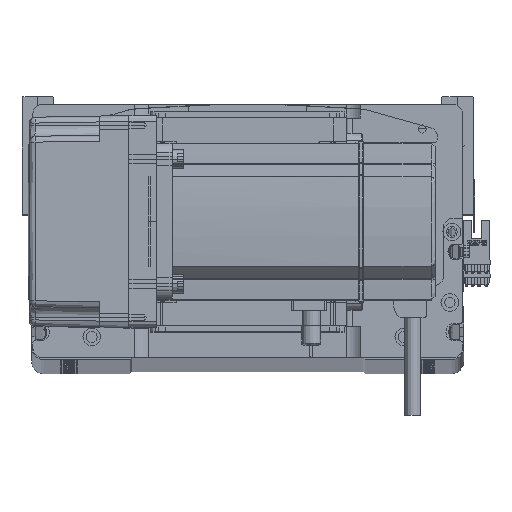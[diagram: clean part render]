
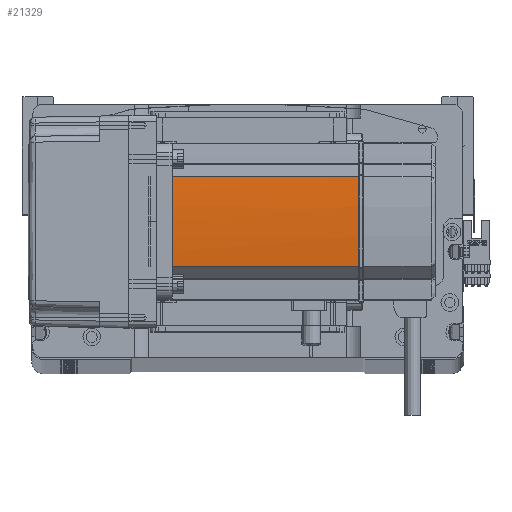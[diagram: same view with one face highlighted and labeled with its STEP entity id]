
A CAD part, top view. The second image highlights one B-rep face of the part: STEP entity #21329.
In plain terms, the highlighted cylindrical face has radius 270 mm (diameter 540 mm), a partial arc.
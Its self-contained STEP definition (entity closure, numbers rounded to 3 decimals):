
#25 = CARTESIAN_POINT ( 'NONE',  ( 39.042, -22.724, 134. ) ) ;
#3010 = DIRECTION ( 'NONE',  ( -1., 0., 0. ) ) ;
#6850 = CARTESIAN_POINT ( 'NONE',  ( 40., 0.127, 134. ) ) ;
#8095 = DIRECTION ( 'NONE',  ( 0., 0., 1. ) ) ;
#8915 = CARTESIAN_POINT ( 'NONE',  ( 39.042, 22.724, 58. ) ) ;
#9067 = ORIENTED_EDGE ( 'NONE', *, *, #21955, .T. ) ;
#9470 = CARTESIAN_POINT ( 'NONE',  ( 39.042, 22.724, 39. ) ) ;
#9952 = AXIS2_PLACEMENT_3D ( 'NONE', #41610, #46223, #3010 ) ;
#11880 = CARTESIAN_POINT ( 'NONE',  ( -230., 0., 134. ) ) ;
#12262 = DIRECTION ( 'NONE',  ( -1., 0., 0. ) ) ;
#12684 = CIRCLE ( 'NONE', #52370, 270. ) ;
#12924 = EDGE_CURVE ( 'NONE', #48194, #27539, #24517, .T. ) ;
#13356 = CIRCLE ( 'NONE', #9952, 270. ) ;
#15246 = VECTOR ( 'NONE', #8095, 1000. ) ;
#16072 = VERTEX_POINT ( 'NONE', #43747 ) ;
#16398 = DIRECTION ( 'NONE',  ( 0., 0., -1. ) ) ;
#16883 = ORIENTED_EDGE ( 'NONE', *, *, #55757, .T. ) ;
#17534 = DIRECTION ( 'NONE',  ( -1., 0., 0. ) ) ;
#19056 = CARTESIAN_POINT ( 'NONE',  ( 40., -0.042, 134. ) ) ;
#19163 = AXIS2_PLACEMENT_3D ( 'NONE', #26324, #40627, #12262 ) ;
#20398 = VERTEX_POINT ( 'NONE', #9470 ) ;
#21107 = VERTEX_POINT ( 'NONE', #6850 ) ;
#21329 = ADVANCED_FACE ( 'NONE', ( #57050 ), #24698, .T. ) ;
#21955 = EDGE_CURVE ( 'NONE', #16072, #21107, #13356, .T. ) ;
#22366 = DIRECTION ( 'NONE',  ( 0., 0., -1. ) ) ;
#22714 = VERTEX_POINT ( 'NONE', #60081 ) ;
#22833 = DIRECTION ( 'NONE',  ( 0., 0., -1. ) ) ;
#24219 = ORIENTED_EDGE ( 'NONE', *, *, #12924, .T. ) ;
#24517 = LINE ( 'NONE', #41588, #53901 ) ;
#24698 = CYLINDRICAL_SURFACE ( 'NONE', #19163, 270. ) ;
#26049 = CARTESIAN_POINT ( 'NONE',  ( -230., 0., 39. ) ) ;
#26324 = CARTESIAN_POINT ( 'NONE',  ( -230., 0., 58. ) ) ;
#27539 = VERTEX_POINT ( 'NONE', #50461 ) ;
#30059 = AXIS2_PLACEMENT_3D ( 'NONE', #11880, #22366, #17534 ) ;
#30938 = B_SPLINE_CURVE_WITH_KNOTS ( 'NONE', 3,
 ( #38177, #19056, #57509, #62132 ),
 .UNSPECIFIED., .F., .F.,
 ( 4, 4 ),
 ( 0., 1. ),
 .UNSPECIFIED. ) ;
#33086 = ORIENTED_EDGE ( 'NONE', *, *, #44844, .F. ) ;
#33295 = EDGE_LOOP ( 'NONE', ( #24219, #33086, #16883, #9067, #44179, #33500 ) ) ;
#33500 = ORIENTED_EDGE ( 'NONE', *, *, #33789, .T. ) ;
#33789 = EDGE_CURVE ( 'NONE', #22714, #48194, #39448, .T. ) ;
#38177 = CARTESIAN_POINT ( 'NONE',  ( 40., -0.127, 134. ) ) ;
#39448 = CIRCLE ( 'NONE', #30059, 270. ) ;
#40627 = DIRECTION ( 'NONE',  ( 0., 0., -1. ) ) ;
#41214 = EDGE_CURVE ( 'NONE', #22714, #21107, #30938, .T. ) ;
#41588 = CARTESIAN_POINT ( 'NONE',  ( 39.042, -22.724, 58. ) ) ;
#41610 = CARTESIAN_POINT ( 'NONE',  ( -230., 0., 134. ) ) ;
#43747 = CARTESIAN_POINT ( 'NONE',  ( 39.042, 22.724, 134. ) ) ;
#43857 = LINE ( 'NONE', #8915, #15246 ) ;
#44179 = ORIENTED_EDGE ( 'NONE', *, *, #41214, .F. ) ;
#44844 = EDGE_CURVE ( 'NONE', #20398, #27539, #12684, .T. ) ;
#46223 = DIRECTION ( 'NONE',  ( 0., 0., -1. ) ) ;
#48194 = VERTEX_POINT ( 'NONE', #25 ) ;
#50029 = DIRECTION ( 'NONE',  ( -1., 0., 0. ) ) ;
#50461 = CARTESIAN_POINT ( 'NONE',  ( 39.042, -22.724, 39. ) ) ;
#52370 = AXIS2_PLACEMENT_3D ( 'NONE', #26049, #16398, #50029 ) ;
#53901 = VECTOR ( 'NONE', #22833, 1000. ) ;
#55757 = EDGE_CURVE ( 'NONE', #20398, #16072, #43857, .T. ) ;
#57050 = FACE_OUTER_BOUND ( 'NONE', #33295, .T. ) ;
#57509 = CARTESIAN_POINT ( 'NONE',  ( 40., 0.042, 134. ) ) ;
#60081 = CARTESIAN_POINT ( 'NONE',  ( 40., -0.127, 134. ) ) ;
#62132 = CARTESIAN_POINT ( 'NONE',  ( 40., 0.127, 134. ) ) ;
